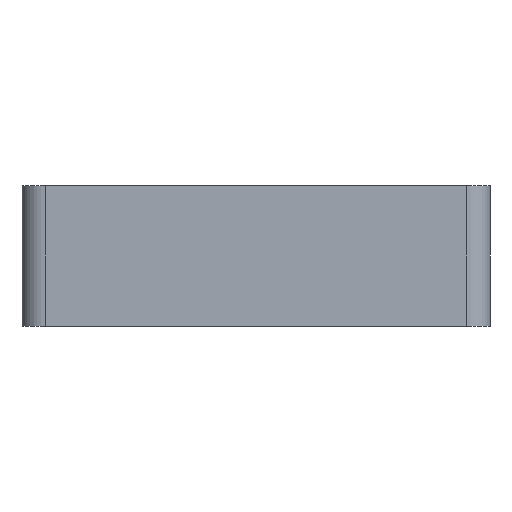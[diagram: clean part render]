
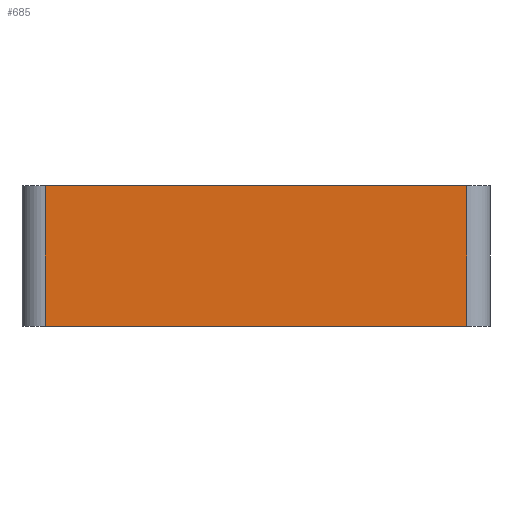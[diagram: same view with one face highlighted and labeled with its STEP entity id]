
A CAD part, left-side view. The second image highlights one B-rep face of the part: STEP entity #685.
In plain terms, the highlighted planar face has unit normal (-1, 0, 0).
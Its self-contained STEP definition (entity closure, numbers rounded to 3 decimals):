
#38 = VERTEX_POINT ( 'NONE', #405 ) ;
#91 = EDGE_CURVE ( 'NONE', #569, #600, #237, .T. ) ;
#121 = LINE ( 'NONE', #500, #319 ) ;
#136 = EDGE_LOOP ( 'NONE', ( #803, #301, #539, #785 ) ) ;
#156 = CARTESIAN_POINT ( 'NONE',  ( 0., 1., 6. ) ) ;
#237 = LINE ( 'NONE', #474, #335 ) ;
#272 = VECTOR ( 'NONE', #555, 1000. ) ;
#301 = ORIENTED_EDGE ( 'NONE', *, *, #419, .T. ) ;
#319 = VECTOR ( 'NONE', #635, 1000. ) ;
#335 = VECTOR ( 'NONE', #801, 1000. ) ;
#362 = EDGE_CURVE ( 'NONE', #569, #570, #121, .T. ) ;
#384 = FACE_OUTER_BOUND ( 'NONE', #136, .T. ) ;
#396 = DIRECTION ( 'NONE',  ( 0., 0., -1. ) ) ;
#405 = CARTESIAN_POINT ( 'NONE',  ( 0., 1., 0. ) ) ;
#419 = EDGE_CURVE ( 'NONE', #38, #600, #637, .T. ) ;
#447 = DIRECTION ( 'NONE',  ( 0., 0., 1. ) ) ;
#470 = CARTESIAN_POINT ( 'NONE',  ( 0., 1., 6. ) ) ;
#474 = CARTESIAN_POINT ( 'NONE',  ( 0., 0., 6. ) ) ;
#500 = CARTESIAN_POINT ( 'NONE',  ( 0., 19., 6. ) ) ;
#539 = ORIENTED_EDGE ( 'NONE', *, *, #91, .F. ) ;
#540 = CARTESIAN_POINT ( 'NONE',  ( 0., 0., 6. ) ) ;
#555 = DIRECTION ( 'NONE',  ( 0., -1., 0. ) ) ;
#569 = VERTEX_POINT ( 'NONE', #809 ) ;
#570 = VERTEX_POINT ( 'NONE', #876 ) ;
#600 = VERTEX_POINT ( 'NONE', #470 ) ;
#635 = DIRECTION ( 'NONE',  ( 0., 0., -1. ) ) ;
#637 = LINE ( 'NONE', #156, #800 ) ;
#666 = LINE ( 'NONE', #885, #272 ) ;
#674 = DIRECTION ( 'NONE',  ( 1., 0., 0. ) ) ;
#685 = ADVANCED_FACE ( 'NONE', ( #384 ), #744, .F. ) ;
#733 = AXIS2_PLACEMENT_3D ( 'NONE', #540, #674, #396 ) ;
#744 = PLANE ( 'NONE',  #733 ) ;
#785 = ORIENTED_EDGE ( 'NONE', *, *, #362, .T. ) ;
#790 = EDGE_CURVE ( 'NONE', #570, #38, #666, .T. ) ;
#800 = VECTOR ( 'NONE', #447, 1000. ) ;
#801 = DIRECTION ( 'NONE',  ( 0., -1., 0. ) ) ;
#803 = ORIENTED_EDGE ( 'NONE', *, *, #790, .T. ) ;
#809 = CARTESIAN_POINT ( 'NONE',  ( 0., 19., 6. ) ) ;
#876 = CARTESIAN_POINT ( 'NONE',  ( 0., 19., 0. ) ) ;
#885 = CARTESIAN_POINT ( 'NONE',  ( 0., 0., 0. ) ) ;
